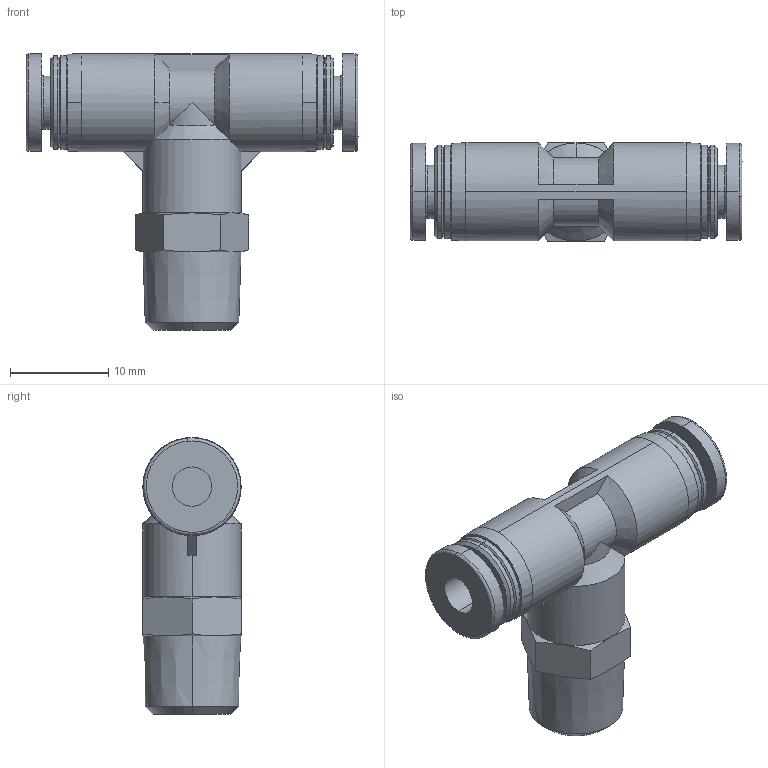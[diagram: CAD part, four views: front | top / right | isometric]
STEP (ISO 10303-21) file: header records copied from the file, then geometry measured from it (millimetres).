
FILE_DESCRIPTION (( 'STEP AP214' ), '1' );
FILE_NAME ('APT4-01.STEP', '2019-12-05T06:49:01', ( '微软用户' ), ( '微软中国' ), 'SwSTEP 2.0', 'SolidWorks 2016', '' );
FILE_SCHEMA (( 'AUTOMOTIVE_DESIGN' ));
Length unit declared in the file: millimetre
Products named in the file (1): APT4-01
Bounding box: 33.8 x 10 x 28.2 mm (x, y, z)
Volume: 3446.3 mm3; surface area: 2406.7 mm2
Topology: 1 solids, 1 shells, 106 faces, 253 edges, 158 vertices
Faces by surface type: cone 44, cylinder 28, plane 26, bspline 8
Entity records: 3555 total; most frequent: CARTESIAN_POINT 1114, DIRECTION 517, ORIENTED_EDGE 506, EDGE_CURVE 253, AXIS2_PLACEMENT_3D 216, VERTEX_POINT 158, CIRCLE 117, EDGE_LOOP 115
